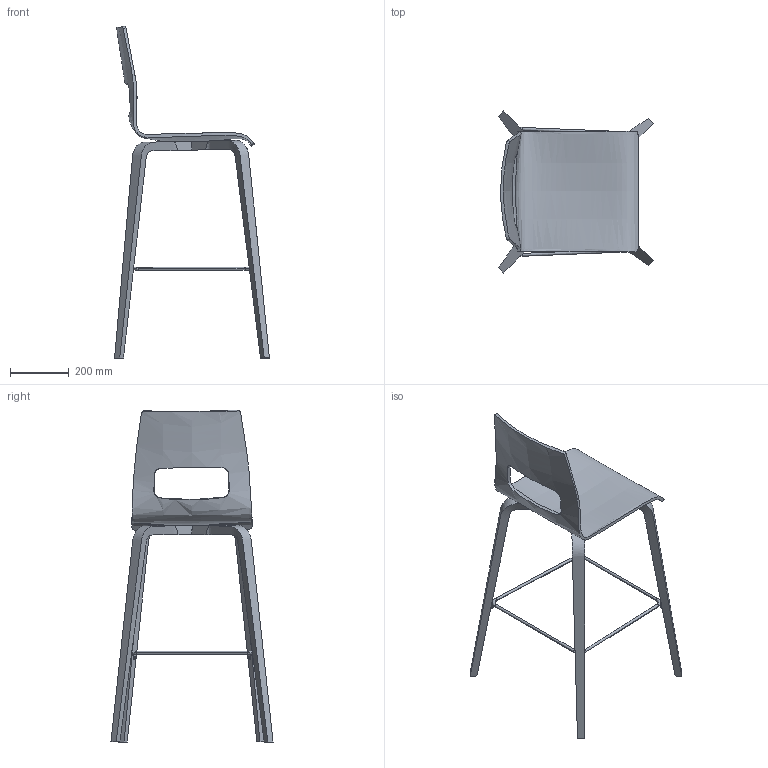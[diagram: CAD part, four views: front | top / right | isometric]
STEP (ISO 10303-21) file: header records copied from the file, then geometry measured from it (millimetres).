
FILE_DESCRIPTION(/* description */ (''),/* implementation_level */ '2;1');
FILE_NAME(/* name */ 'ANA_PB6_HT75',/* time_stamp */ '2024-12-02T10:19:54+01:00',/* author */ (''),/* organization */ (''),/* preprocessor_version */ 'ST-DEVELOPER v19.2',/* originating_system */ 'Rhino 8.12',/* authorisation */ '');
FILE_SCHEMA (('CONFIG_CONTROL_DESIGN'));
Length unit declared in the file: millimetre
Products named in the file (1): Document
Bounding box: 528.5 x 553.48 x 1133.57 mm (x, y, z)
Volume: 3305890.8 mm3; surface area: 1112075 mm2
Topology: 10 solids, 56 shells, 186 faces, 528 edges, 404 vertices
Faces by surface type: plane 74, bspline 60, cylinder 52
Entity records: 79384 total; most frequent: CARTESIAN_POINT 75533, ORIENTED_EDGE 828, EDGE_CURVE 528, VERTEX_POINT 404, DIRECTION 348, B_SPLINE_CURVE_WITH_KNOTS 326, AXIS2_PLACEMENT_3D 237, EDGE_LOOP 220
